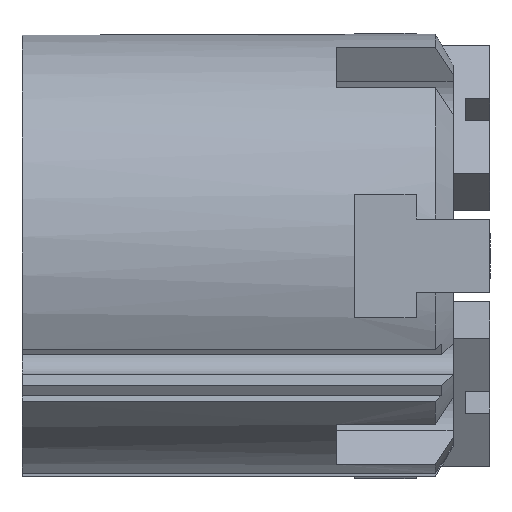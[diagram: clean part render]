
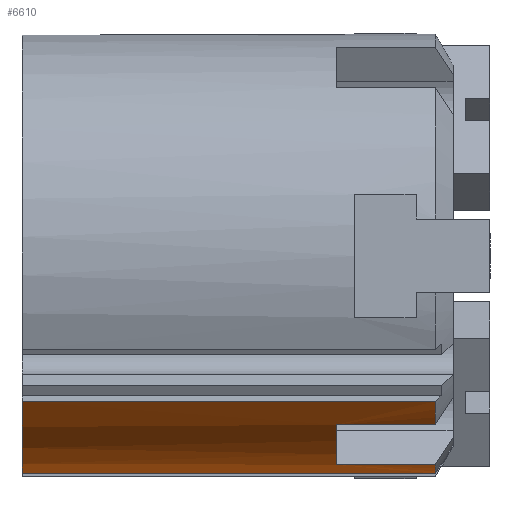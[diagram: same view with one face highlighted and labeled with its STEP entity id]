
A CAD part, left-side view. The second image highlights one B-rep face of the part: STEP entity #6610.
In plain terms, the highlighted cylindrical face has radius 18 mm (diameter 36 mm), a partial arc.
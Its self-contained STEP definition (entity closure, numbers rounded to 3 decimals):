
#106 = VERTEX_POINT ( 'NONE', #4650 ) ;
#192 = ORIENTED_EDGE ( 'NONE', *, *, #6577, .T. ) ;
#388 = EDGE_CURVE ( 'NONE', #999, #5302, #5623, .T. ) ;
#556 = DIRECTION ( 'NONE',  ( 0., 1., 0. ) ) ;
#634 = DIRECTION ( 'NONE',  ( 0., 1., 0. ) ) ;
#665 = VECTOR ( 'NONE', #6638, 1000. ) ;
#710 = DIRECTION ( 'NONE',  ( 0., 1., 0. ) ) ;
#845 = VECTOR ( 'NONE', #1248, 1000. ) ;
#853 = CARTESIAN_POINT ( 'NONE',  ( -11.667, -33.557, -13.707 ) ) ;
#922 = CARTESIAN_POINT ( 'NONE',  ( -6.038, -33.557, -16.957 ) ) ;
#956 = CARTESIAN_POINT ( 'NONE',  ( -6.038, -25.5, -16.957 ) ) ;
#999 = VERTEX_POINT ( 'NONE', #5343 ) ;
#1011 = VERTEX_POINT ( 'NONE', #5852 ) ;
#1049 = AXIS2_PLACEMENT_3D ( 'NONE', #4079, #4597, #3539 ) ;
#1121 = AXIS2_PLACEMENT_3D ( 'NONE', #4364, #1202, #4880 ) ;
#1136 = EDGE_CURVE ( 'NONE', #2095, #3757, #2227, .T. ) ;
#1202 = DIRECTION ( 'NONE',  ( 0., 1., 0. ) ) ;
#1246 = CARTESIAN_POINT ( 'NONE',  ( -3.429, -33.557, -17.67 ) ) ;
#1248 = DIRECTION ( 'NONE',  ( 0., 1., 0. ) ) ;
#1398 = VERTEX_POINT ( 'NONE', #5528 ) ;
#1502 = AXIS2_PLACEMENT_3D ( 'NONE', #3885, #710, #4411 ) ;
#1765 = ORIENTED_EDGE ( 'NONE', *, *, #3936, .T. ) ;
#1880 = ORIENTED_EDGE ( 'NONE', *, *, #1136, .T. ) ;
#2051 = FACE_OUTER_BOUND ( 'NONE', #4188, .T. ) ;
#2095 = VERTEX_POINT ( 'NONE', #1246 ) ;
#2227 = CIRCLE ( 'NONE', #5928, 18. ) ;
#2296 = DIRECTION ( 'NONE',  ( 0., -1., 0. ) ) ;
#2816 = AXIS2_PLACEMENT_3D ( 'NONE', #3809, #634, #4338 ) ;
#2828 = CIRCLE ( 'NONE', #2816, 18. ) ;
#3123 = EDGE_CURVE ( 'NONE', #6094, #999, #4679, .T. ) ;
#3372 = ORIENTED_EDGE ( 'NONE', *, *, #3514, .T. ) ;
#3514 = EDGE_CURVE ( 'NONE', #106, #2095, #6522, .T. ) ;
#3539 = DIRECTION ( 'NONE',  ( 0., 0., -1. ) ) ;
#3636 = CYLINDRICAL_SURFACE ( 'NONE', #1049, 18. ) ;
#3731 = CARTESIAN_POINT ( 'NONE',  ( 0., -33.557, 0. ) ) ;
#3757 = VERTEX_POINT ( 'NONE', #922 ) ;
#3809 = CARTESIAN_POINT ( 'NONE',  ( 0., 0., 0. ) ) ;
#3885 = CARTESIAN_POINT ( 'NONE',  ( 0., -25.5, 0. ) ) ;
#3888 = CARTESIAN_POINT ( 'NONE',  ( -6.038, -16.778, -16.957 ) ) ;
#3936 = EDGE_CURVE ( 'NONE', #5302, #1011, #5541, .T. ) ;
#3992 = EDGE_CURVE ( 'NONE', #3757, #6094, #6434, .T. ) ;
#4079 = CARTESIAN_POINT ( 'NONE',  ( 0., -33.557, 0. ) ) ;
#4188 = EDGE_LOOP ( 'NONE', ( #5365, #5531, #6685, #1765, #192, #6407, #3372, #1880 ) ) ;
#4255 = DIRECTION ( 'NONE',  ( -0.135, 0., -0.991 ) ) ;
#4338 = DIRECTION ( 'NONE',  ( 0., 0., -1. ) ) ;
#4364 = CARTESIAN_POINT ( 'NONE',  ( 0., -33.557, 0. ) ) ;
#4365 = CARTESIAN_POINT ( 'NONE',  ( -11.667, -16.778, -13.707 ) ) ;
#4411 = DIRECTION ( 'NONE',  ( 0., 0., -1. ) ) ;
#4581 = CARTESIAN_POINT ( 'NONE',  ( -13.588, -16.778, -11.805 ) ) ;
#4597 = DIRECTION ( 'NONE',  ( 0., -1., 0. ) ) ;
#4650 = CARTESIAN_POINT ( 'NONE',  ( -3.429, 0., -17.67 ) ) ;
#4679 = CIRCLE ( 'NONE', #1502, 18. ) ;
#4880 = DIRECTION ( 'NONE',  ( -0.135, 0., -0.991 ) ) ;
#4884 = DIRECTION ( 'NONE',  ( 0., -1., 0. ) ) ;
#5302 = VERTEX_POINT ( 'NONE', #853 ) ;
#5343 = CARTESIAN_POINT ( 'NONE',  ( -11.667, -25.5, -13.707 ) ) ;
#5365 = ORIENTED_EDGE ( 'NONE', *, *, #3992, .T. ) ;
#5470 = VECTOR ( 'NONE', #4884, 1000. ) ;
#5528 = CARTESIAN_POINT ( 'NONE',  ( -13.588, 0., -11.805 ) ) ;
#5531 = ORIENTED_EDGE ( 'NONE', *, *, #3123, .T. ) ;
#5541 = CIRCLE ( 'NONE', #1121, 18. ) ;
#5623 = LINE ( 'NONE', #4365, #5470 ) ;
#5852 = CARTESIAN_POINT ( 'NONE',  ( -13.588, -33.557, -11.805 ) ) ;
#5928 = AXIS2_PLACEMENT_3D ( 'NONE', #3731, #556, #4255 ) ;
#6094 = VERTEX_POINT ( 'NONE', #956 ) ;
#6243 = LINE ( 'NONE', #4581, #665 ) ;
#6254 = EDGE_CURVE ( 'NONE', #106, #1398, #2828, .T. ) ;
#6336 = VECTOR ( 'NONE', #2296, 1000. ) ;
#6407 = ORIENTED_EDGE ( 'NONE', *, *, #6254, .F. ) ;
#6434 = LINE ( 'NONE', #3888, #845 ) ;
#6476 = CARTESIAN_POINT ( 'NONE',  ( -3.429, -16.778, -17.67 ) ) ;
#6522 = LINE ( 'NONE', #6476, #6336 ) ;
#6577 = EDGE_CURVE ( 'NONE', #1011, #1398, #6243, .T. ) ;
#6610 = ADVANCED_FACE ( 'NONE', ( #2051 ), #3636, .T. ) ;
#6638 = DIRECTION ( 'NONE',  ( 0., 1., 0. ) ) ;
#6685 = ORIENTED_EDGE ( 'NONE', *, *, #388, .T. ) ;
